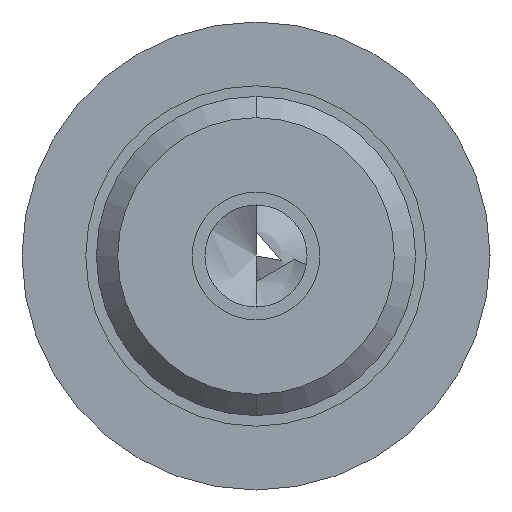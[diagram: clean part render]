
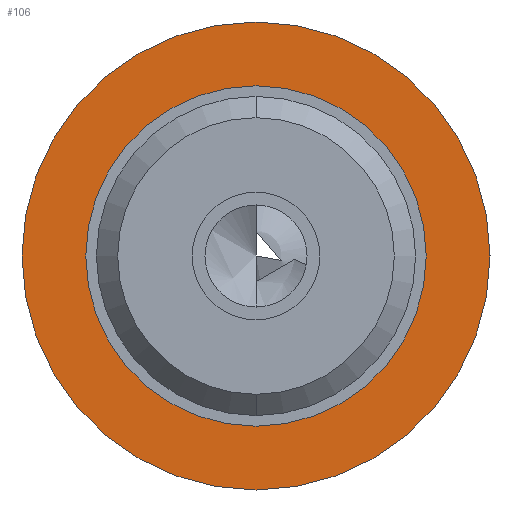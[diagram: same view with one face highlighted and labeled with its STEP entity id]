
A CAD part, left-side view. The second image highlights one B-rep face of the part: STEP entity #106.
In plain terms, the highlighted free-form (B-spline) face has degree [1, 1] with [2, 2] control points.
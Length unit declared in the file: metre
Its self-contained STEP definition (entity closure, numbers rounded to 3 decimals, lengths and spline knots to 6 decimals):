
#106 = ADVANCED_FACE( '', ( #182, #183 ), #184, .F. );
#182 = FACE_BOUND( '', #352, .T. );
#183 = FACE_OUTER_BOUND( '', #353, .T. );
#184 = B_SPLINE_SURFACE_WITH_KNOTS( '', 1, 1, ( ( #354, #355 ), ( #356, #357 ) ), .UNSPECIFIED., .F., .F., .F., ( 2, 2 ), ( 2, 2 ), ( 0., 1. ), ( 0., 1. ), .UNSPECIFIED. );
#352 = EDGE_LOOP( '', ( #587, #588 ) );
#353 = EDGE_LOOP( '', ( #589, #590 ) );
#354 = CARTESIAN_POINT( '', ( 0.02, -0.011132, 0.011132 ) );
#355 = CARTESIAN_POINT( '', ( 0.02, 0.011132, 0.011132 ) );
#356 = CARTESIAN_POINT( '', ( 0.02, -0.011132, -0.011132 ) );
#357 = CARTESIAN_POINT( '', ( 0.02, 0.011132, -0.011132 ) );
#587 = ORIENTED_EDGE( '', *, *, #710, .T. );
#588 = ORIENTED_EDGE( '', *, *, #708, .T. );
#589 = ORIENTED_EDGE( '', *, *, #715, .F. );
#590 = ORIENTED_EDGE( '', *, *, #712, .F. );
#708 = EDGE_CURVE( '', #814, #818, #820, .F. );
#710 = EDGE_CURVE( '', #818, #814, #822, .F. );
#712 = EDGE_CURVE( '', #823, #826, #827, .F. );
#715 = EDGE_CURVE( '', #826, #823, #831, .F. );
#814 = VERTEX_POINT( '', #956 );
#818 = VERTEX_POINT( '', #961 );
#820 = CIRCLE( '', #964, 0.0075 );
#822 = CIRCLE( '', #966, 0.0075 );
#823 = VERTEX_POINT( '', #967 );
#826 = VERTEX_POINT( '', #971 );
#827 = CIRCLE( '', #972, 0.011 );
#831 = CIRCLE( '', #977, 0.011 );
#956 = CARTESIAN_POINT( '', ( 0.02, 0., -0.0075 ) );
#961 = CARTESIAN_POINT( '', ( 0.02, 0., 0.0075 ) );
#964 = AXIS2_PLACEMENT_3D( '', #1126, #1127, #1128 );
#966 = AXIS2_PLACEMENT_3D( '', #1132, #1133, #1134 );
#967 = CARTESIAN_POINT( '', ( 0.02, 0., -0.011 ) );
#971 = CARTESIAN_POINT( '', ( 0.02, 0., 0.011 ) );
#972 = AXIS2_PLACEMENT_3D( '', #1136, #1137, #1138 );
#977 = AXIS2_PLACEMENT_3D( '', #1143, #1144, #1145 );
#1126 = CARTESIAN_POINT( '', ( 0.02, 0., 0. ) );
#1127 = DIRECTION( '', ( -1., 0., 0. ) );
#1128 = DIRECTION( '', ( 0., 0., 1. ) );
#1132 = CARTESIAN_POINT( '', ( 0.02, 0., 0. ) );
#1133 = DIRECTION( '', ( -1., 0., 0. ) );
#1134 = DIRECTION( '', ( 0., 0., 1. ) );
#1136 = CARTESIAN_POINT( '', ( 0.02, 0., 0. ) );
#1137 = DIRECTION( '', ( -1., 0., 0. ) );
#1138 = DIRECTION( '', ( 0., 0., 1. ) );
#1143 = CARTESIAN_POINT( '', ( 0.02, 0., 0. ) );
#1144 = DIRECTION( '', ( -1., 0., 0. ) );
#1145 = DIRECTION( '', ( 0., 0., 1. ) );
